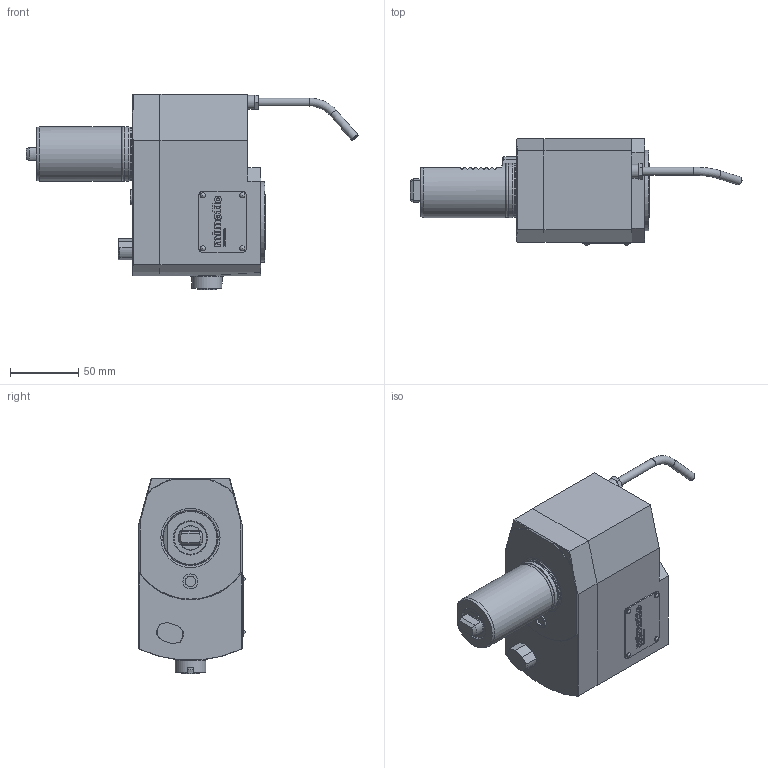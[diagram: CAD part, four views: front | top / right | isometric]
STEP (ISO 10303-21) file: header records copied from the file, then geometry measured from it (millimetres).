
FILE_DESCRIPTION(/* description */ (''),/* implementation_level */ '2;1');
FILE_NAME(/* name */ '195561',/* time_stamp */ '2020-09-25T10:17:51+02:00',/* author */ (''),/* organization */ (''),/* preprocessor_version */ 'ST-DEVELOPER v16.5',/* originating_system */ 'HiCAD 2017 2201.0 Build 268',/* authorisation */ '');
FILE_SCHEMA (('AUTOMOTIVE_DESIGN { 1 0 10303 214 1 1 1 1 }'));
Length unit declared in the file: millimetre
Products named in the file (47): Root; Leeres Teil; ROTATIONSTEIL_0_210*; ROTATIONSTEIL_0_100*; ROTATIONSTEIL_1; KZF_M10_3D; 112485_Überwurfschraube_351*; 112384_Doppelkegelring D6_352*; TORUS_1_353*; 173501_Kantsealring 7.65x1.68_330*; 113942_O-Ring 36x2_331*; 113946_O-Ring 15x1.5_335*; ROTATIONSTEIL_0_110*; DIN 13-M17x1; DIN 76-M5; 195565_Spannsatz Berg C4 rot._350*; 777.18468.002.1.1; 765.18468.001.0.01; 19115_SB26; 763.18468.001.1; 00088665_220*; KLEMMUNG; DIN 472_Sicherungsring / Nut_430*; 111868_Druckfeder D150B_340*; 00093735_130*; 00092920_120*; DIN 13-M24x1; 113692_Kerbnagel 2x4_380*; QUADER_0_370*
Assembly tree (46 placements, depth 7):
  Root
    Leeres Teil
      Leeres Teil
        Leeres Teil
          ROTATIONSTEIL_0_210*
          ROTATIONSTEIL_0_100*
          ROTATIONSTEIL_1
        Leeres Teil
          KZF_M10_3D
            112485_Überwurfschraube_351*
              (unnamed)
            112384_Doppelkegelring D6_352*
            TORUS_1_353*
          173501_Kantsealring 7.65x1.68_330*
          Leeres Teil
          113942_O-Ring 36x2_331*
          113946_O-Ring 15x1.5_335*
      Leeres Teil
        Leeres Teil
          ROTATIONSTEIL_0_110*
            DIN 13-M17x1
            DIN 76-M5
        195565_Spannsatz Berg C4 rot._350*
          777.18468.002.1.1
          765.18468.001.0.01
          777.18468.002.1.1
          765.18468.001.0.01
          19115_SB26
          765.18468.001.0.01
          765.18468.001.0.01
          765.18468.001.0.01
          763.18468.001.1
      Leeres Teil
        Leeres Teil
          00088665_220*
      KLEMMUNG
        DIN 472_Sicherungsring / Nut_430*
        111868_Druckfeder D150B_340*
        00093735_130*
        00092920_120*
          DIN 13-M24x1
      Leeres Teil
        113692_Kerbnagel 2x4_380*
        113692_Kerbnagel 2x4_380*
        113692_Kerbnagel 2x4_380*
        113692_Kerbnagel 2x4_380*
        QUADER_0_370*
Bounding box: 244.07 x 78.3 x 144 mm (x, y, z)
Volume: 967015.3 mm3; surface area: 120532.2 mm2
Topology: 28 solids, 28 shells, 758 faces, 1961 edges, 1289 vertices
Faces by surface type: plane 399, cylinder 154, torus 82, cone 79, bspline 40, sphere 4
Full cylindrical faces by diameter (mm): 2 x4, 2.2 x4, 4 x2, 6 x3, 7.65 x1, 8.1 x1, 8.773 x2, 10 x1, 11.01 x1, 11.1 x1, 15 x1, 15.4 x1, 17.8 x2, 18 x1, 22.5 x1, 24 x1, 36.7 x1, 39.4 x1, 40 x3, 59 x2
Entity records: 46730 total; most frequent: CARTESIAN_POINT 9002, DIRECTION 4016, PRESENTATION_STYLE_ASSIGNMENT 3778, ORIENTED_EDGE 3758, DRAUGHTING_PRE_DEFINED_CURVE_FONT 3750, CURVE_STYLE 3750, OVER_RIDING_STYLED_ITEM 3750, COLOUR_RGB 3730
